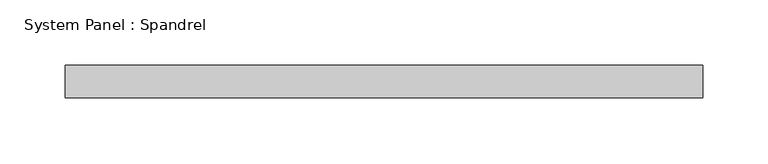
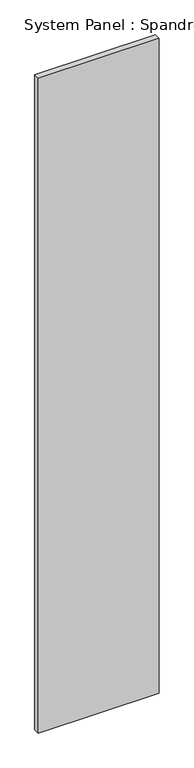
"""IFC4 building model written with IfcOpenShell, lengths in millimetres: plate geometry, System Panel : Spandrel."""

import ifcopenshell
import ifcopenshell.guid

model = None  # the IFC model being written
_history = None  # IfcOwnerHistory: only IFC2X3 demands one
_inside = {}  # id of a spatial element -> (the spatial element, [elements in it])
_under = {}  # id of a project, library or spatial element -> (it, [spatial elements below it])
_declared = {}  # id of a project -> (the project, [libraries it declares])
_typed = {}  # id of a type object -> (the type object, [elements of that type])
_made_of = {}  # id of a material, layer set ... -> (it, [elements and type objects made of it])


def new_model(schema):
    """Start an empty IFC model of exactly this schema.

    Asked for "IFC4X3", IfcOpenShell would pick the latest addendum, in which some entities
    have other attributes; the version numbers below select the first issue.
    IFC2X3 requires an IfcOwnerHistory on every rooted entity: one is made here for all.
    """
    global model, _history
    if schema == "IFC4X3":
        model = ifcopenshell.file(schema_version=(4, 3, 0, 0))
    else:
        model = ifcopenshell.file(schema=schema)
    _inside.clear()
    _under.clear()
    _declared.clear()
    _typed.clear()
    _made_of.clear()
    _history = None
    if model.schema == "IFC2X3":
        org = make("IfcOrganization", Name="unknown")
        user = make(
            "IfcPersonAndOrganization",
            ThePerson=make("IfcPerson", FamilyName="unknown"),
            TheOrganization=org,
        )
        app = make(
            "IfcApplication",
            ApplicationDeveloper=org,
            Version="unknown",
            ApplicationFullName="unknown",
            ApplicationIdentifier="unknown",
        )
        _history = make(
            "IfcOwnerHistory",
            OwningUser=user,
            OwningApplication=app,
            ChangeAction="ADDED",
            CreationDate=0,
        )
    return model


def make(cls, **values):
    """One entity of the class cls with the attributes given. An attribute that is None is left unset."""
    return model.create_entity(
        cls, **{name: value for name, value in values.items() if value is not None}
    )


def rooted(cls, **values):
    """An entity with a GlobalId (a new one), such as an element, a storey or a relation."""
    return make(cls, GlobalId=ifcopenshell.guid.new(), OwnerHistory=_history, **values)


def si_unit(unit_type, name, prefix=None):
    """IfcSIUnit, for example si_unit("LENGTHUNIT", "METRE", prefix="MILLI")."""
    return make("IfcSIUnit", UnitType=unit_type, Prefix=prefix, Name=name)


def assignment(units):
    """IfcUnitAssignment: the units of a project."""
    return None if units is None else make("IfcUnitAssignment", Units=units)


def point(xyz):
    """IfcCartesianPoint."""
    return None if xyz is None else make("IfcCartesianPoint", Coordinates=xyz)


def direction(xyz):
    """IfcDirection."""
    return None if xyz is None else make("IfcDirection", DirectionRatios=xyz)


def frame(location, z_axis=None, x_axis=None):
    """IfcAxis2Placement3D, a coordinate frame: its origin and axes. An axis left out is left unset."""
    return make(
        "IfcAxis2Placement3D",
        Location=point(location),
        Axis=direction(z_axis),
        RefDirection=direction(x_axis),
    )


def origin():
    """The frame at (0, 0, 0) with its axes left unset."""
    return frame((0.0, 0.0, 0.0))


def origin_with_axes():
    """The frame at (0, 0, 0) with the z axis (0, 0, 1) and the x axis (1, 0, 0) written out."""
    return frame((0.0, 0.0, 0.0), z_axis=(0.0, 0.0, 1.0), x_axis=(1.0, 0.0, 0.0))


def place(relative_to, where):
    """IfcLocalPlacement: puts the frame where relative to a parent placement (None: the world)."""
    return make(
        "IfcLocalPlacement", PlacementRelTo=relative_to, RelativePlacement=where
    )


def context(
    kind, dimensions, precision=None, world=None, true_north=None, identifier=None
):
    """IfcGeometricRepresentationContext, for example the 3D "Model" context."""
    return make(
        "IfcGeometricRepresentationContext",
        ContextIdentifier=identifier,
        ContextType=kind,
        CoordinateSpaceDimension=dimensions,
        Precision=precision,
        WorldCoordinateSystem=world,
        TrueNorth=true_north,
    )


def project(units=None, contexts=None):
    """IfcProject with its units and contexts."""
    return rooted(
        "IfcProject",
        Name="project",
        RepresentationContexts=contexts,
        UnitsInContext=assignment(units),
    )


def spatial(cls, under=None, at=None, **own):
    """A site, building, storey or space (cls), placed at a placement, below another one or the project."""
    s = rooted(cls, ObjectPlacement=at, **own)
    if under is not None:
        _under.setdefault(under.id(), (under, []))[1].append(s)
    return s


def polyline(points):
    """IfcPolyline through the points."""
    return make("IfcPolyline", Points=[point(p) for p in points])


def outline(outer, holes=None, kind="AREA"):
    """IfcArbitraryClosedProfileDef: a profile drawn as a closed curve; with holes, ...WithVoids."""
    if holes is None:
        return make("IfcArbitraryClosedProfileDef", ProfileType=kind, OuterCurve=outer)
    return make(
        "IfcArbitraryProfileDefWithVoids",
        ProfileType=kind,
        OuterCurve=outer,
        InnerCurves=holes,
    )


def extrude(swept, where, along, depth):
    """IfcExtrudedAreaSolid: the profile swept, set in the frame where, extruded along a direction by depth."""
    return make(
        "IfcExtrudedAreaSolid",
        SweptArea=swept,
        Position=where,
        ExtrudedDirection=direction(along),
        Depth=depth,
    )


def shape(context_of_items, identifier, shape_type, items):
    """IfcShapeRepresentation: the items that make up one representation, for example the "Body"."""
    return make(
        "IfcShapeRepresentation",
        ContextOfItems=context_of_items,
        RepresentationIdentifier=identifier,
        RepresentationType=shape_type,
        Items=items,
    )


def source(mapping_origin, context_of_items, identifier, shape_type, items):
    """IfcRepresentationMap: a shape defined once, which mapped items show again and again."""
    return make(
        "IfcRepresentationMap",
        MappingOrigin=mapping_origin,
        MappedRepresentation=shape(context_of_items, identifier, shape_type, items),
    )


def transform(
    local_origin,
    x_axis=None,
    y_axis=None,
    z_axis=None,
    scale=None,
    scale2=None,
    scale3=None,
    uniform=True,
):
    """IfcCartesianTransformationOperator3D, or its non-uniform kind. x_axis, y_axis, z_axis: its Axis1, 2, 3."""
    if uniform:
        return make(
            "IfcCartesianTransformationOperator3D",
            Axis1=direction(x_axis),
            Axis2=direction(y_axis),
            LocalOrigin=point(local_origin),
            Scale=scale,
            Axis3=direction(z_axis),
        )
    return make(
        "IfcCartesianTransformationOperator3DnonUniform",
        Axis1=direction(x_axis),
        Axis2=direction(y_axis),
        LocalOrigin=point(local_origin),
        Scale=scale,
        Axis3=direction(z_axis),
        Scale2=scale2,
        Scale3=scale3,
    )


def mapped(mapping_source, mapping_target):
    """IfcMappedItem: shows the shape of a source again, moved by a transform."""
    return make(
        "IfcMappedItem", MappingSource=mapping_source, MappingTarget=mapping_target
    )


def made_of(thing, what):
    """Note that an element or type object is made of a material, layer set ...; save() writes the relation."""
    if what is not None:
        _made_of.setdefault(what.id(), (what, []))[1].append(thing)
    return thing


def element(
    cls,
    number,
    at=None,
    inside=None,
    cuts=None,
    type_object=None,
    material=None,
    context=None,
    identifier="Body",
    shape_type=None,
    held_by="IfcProductDefinitionShape",
    body=None,
    shapes=None,
    **own,
):
    """One element of the class cls, such as IfcWall. Its Tag is "e" and its number.

    at: its placement. inside: the storey or other place that contains it. cuts: it is an
    opening in that element (IfcRelVoidsElement). A single representation is given by context,
    identifier, shape_type and body (its items); several are given by shapes. held_by: the class
    of the entity that holds the representations. save() writes the other relations.
    """
    e = rooted(cls, Tag="e%d" % number, ObjectPlacement=at, **own)
    if body is not None:
        shapes = [shape(context, identifier, shape_type, body)]
    if shapes is not None:
        e.Representation = make(held_by, Representations=shapes)
    if inside is not None:
        _inside.setdefault(inside.id(), (inside, []))[1].append(e)
    if cuts is not None:
        rooted(
            "IfcRelVoidsElement", RelatingBuildingElement=cuts, RelatedOpeningElement=e
        )
    if type_object is not None:
        _typed.setdefault(type_object.id(), (type_object, []))[1].append(e)
    return made_of(e, material)


def aggregate(whole, parts):
    """IfcRelAggregates: a whole, such as a stair, and the parts it consists of."""
    return rooted("IfcRelAggregates", RelatingObject=whole, RelatedObjects=parts)


def save(model, path):
    """Write the relations noted so far, then the file.

    IfcRelAggregates (storeys below a building ...), IfcRelContainedInSpatialStructure (elements
    in a storey), IfcRelDefinesByType, IfcRelAssociatesMaterial and IfcRelDeclares: one each for
    every whole, place, type object, material and project.
    """
    for whole, parts in _under.values():
        aggregate(whole, parts)
    for where, things in _inside.values():
        rooted(
            "IfcRelContainedInSpatialStructure",
            RelatedElements=things,
            RelatingStructure=where,
        )
    for kind, things in _typed.values():
        rooted("IfcRelDefinesByType", RelatedObjects=things, RelatingType=kind)
    for what, things in _made_of.values():
        rooted("IfcRelAssociatesMaterial", RelatedObjects=things, RelatingMaterial=what)
    for by, libraries in _declared.values():
        rooted("IfcRelDeclares", RelatingContext=by, RelatedDefinitions=libraries)
    model.write(path)


def system_panel_spandrel_02eae00e(model_context):
    return source(origin(), model_context, "Body", "SweptSolid", [
        extrude(outline(polyline([(243.9999997, -25.0), (-243.9999997, -25.0), (-243.9999997, 0.0), (243.9999997, 0.0), (243.9999997, -25.0)])), origin_with_axes(), (0.0, 0.0, 1.0), 2800.0),
    ])


if __name__ == "__main__":
    model = new_model("IFC4")
    model_context = context("Model", 3, world=origin())
    ifc_project = project(units=[si_unit("LENGTHUNIT", "METRE", prefix="MILLI")], contexts=[model_context])
    site = spatial("IfcSite", under=ifc_project)
    building = spatial("IfcBuilding", under=site)
    placement = place(None, origin())
    system_panel_spandrel_shape = system_panel_spandrel_02eae00e(model_context)
    element("IfcPlate", 1, ObjectType="System Panel : Spandrel", at=placement, inside=building, context=model_context, shape_type="MappedRepresentation", body=[
        mapped(system_panel_spandrel_shape, transform((0.0, 0.0, 0.0), x_axis=(1.0, 0.0, 0.0), y_axis=(0.0, 1.0, 0.0), z_axis=(0.0, 0.0, 1.0))),
    ])
    save(model, "model.ifc")
